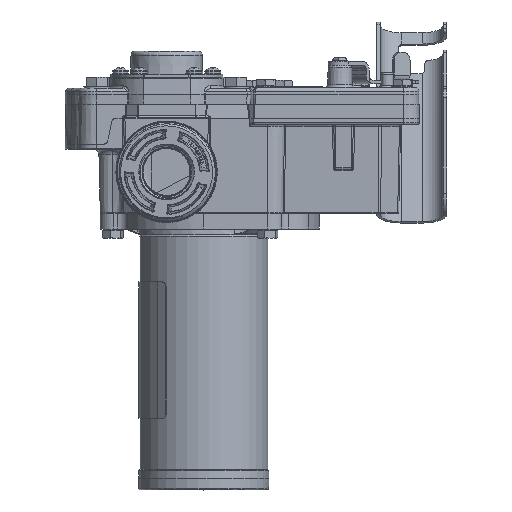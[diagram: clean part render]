
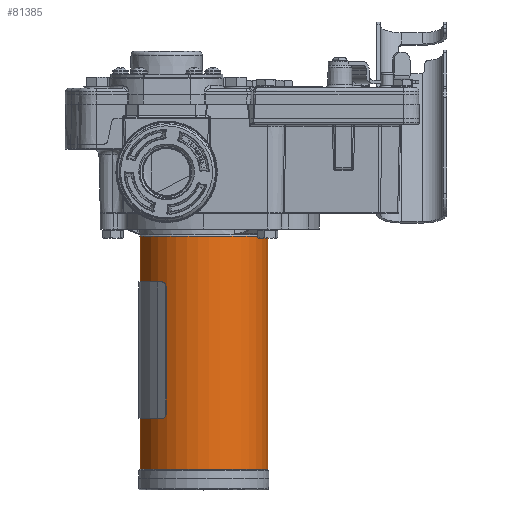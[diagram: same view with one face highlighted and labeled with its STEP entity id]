
A CAD part, front view. The second image highlights one B-rep face of the part: STEP entity #81385.
In plain terms, the highlighted cylindrical face has radius 38.976 mm (diameter 77.953 mm), a full revolution.
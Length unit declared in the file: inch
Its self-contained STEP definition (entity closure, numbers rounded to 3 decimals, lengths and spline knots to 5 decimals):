
#527=FACE_BOUND('',#10333,.T.);
#4377=CYLINDRICAL_SURFACE('',#86531,1.5345);
#5080=ELLIPSE('',#86525,4.48658,1.5345);
#5081=ELLIPSE('',#86527,4.48658,1.5345);
#5696=FACE_OUTER_BOUND('',#10332,.T.);
#10332=EDGE_LOOP('',(#54800,#54801,#54802,#54803));
#10333=EDGE_LOOP('',(#54804,#54805,#54806,#54807,#54808,#54809,#54810));
#15093=CIRCLE('',#86518,1.5345);
#15094=CIRCLE('',#86521,1.5345);
#15095=CIRCLE('',#86523,1.5345);
#15096=CIRCLE('',#86530,1.5345);
#15097=CIRCLE('',#86532,1.5345);
#20213=LINE('',#131830,#26616);
#20219=LINE('',#131844,#26622);
#20230=LINE('',#131877,#26633);
#26616=VECTOR('',#94396,0.3937);
#26622=VECTOR('',#94408,0.3937);
#26633=VECTOR('',#94445,1.5345);
#33452=VERTEX_POINT('',#131828);
#33453=VERTEX_POINT('',#131829);
#33456=VERTEX_POINT('',#131837);
#33458=VERTEX_POINT('',#131843);
#33460=VERTEX_POINT('',#131849);
#33462=VERTEX_POINT('',#131855);
#33464=VERTEX_POINT('',#131861);
#33466=VERTEX_POINT('',#131871);
#33467=VERTEX_POINT('',#131875);
#41601=EDGE_CURVE('',#33452,#33453,#20213,.T.);
#41605=EDGE_CURVE('',#33453,#33456,#15093,.T.);
#41608=EDGE_CURVE('',#33456,#33458,#20219,.T.);
#41611=EDGE_CURVE('',#33458,#33460,#15094,.T.);
#41614=EDGE_CURVE('',#33462,#33452,#15095,.T.);
#41617=EDGE_CURVE('',#33464,#33462,#5080,.T.);
#41620=EDGE_CURVE('',#33460,#33464,#5081,.T.);
#41623=EDGE_CURVE('',#33466,#33466,#15096,.T.);
#41624=EDGE_CURVE('',#33467,#33467,#15097,.T.);
#41625=EDGE_CURVE('',#33467,#33466,#20230,.T.);
#54800=ORIENTED_EDGE('',*,*,#41624,.F.);
#54801=ORIENTED_EDGE('',*,*,#41625,.T.);
#54802=ORIENTED_EDGE('',*,*,#41623,.F.);
#54803=ORIENTED_EDGE('',*,*,#41625,.F.);
#54804=ORIENTED_EDGE('',*,*,#41611,.T.);
#54805=ORIENTED_EDGE('',*,*,#41620,.T.);
#54806=ORIENTED_EDGE('',*,*,#41617,.T.);
#54807=ORIENTED_EDGE('',*,*,#41614,.T.);
#54808=ORIENTED_EDGE('',*,*,#41601,.T.);
#54809=ORIENTED_EDGE('',*,*,#41605,.T.);
#54810=ORIENTED_EDGE('',*,*,#41608,.T.);
#81385=ADVANCED_FACE('',(#5696,#527),#4377,.T.);
#86518=AXIS2_PLACEMENT_3D('',#131838,#94402,#94403);
#86521=AXIS2_PLACEMENT_3D('',#131850,#94413,#94414);
#86523=AXIS2_PLACEMENT_3D('',#131856,#94419,#94420);
#86525=AXIS2_PLACEMENT_3D('',#131862,#94425,#94426);
#86527=AXIS2_PLACEMENT_3D('',#131867,#94431,#94432);
#86530=AXIS2_PLACEMENT_3D('',#131873,#94439,#94440);
#86531=AXIS2_PLACEMENT_3D('',#131874,#94441,#94442);
#86532=AXIS2_PLACEMENT_3D('',#131876,#94443,#94444);
#94396=DIRECTION('',(0.,0.,-1.));
#94402=DIRECTION('center_axis',(0.,0.,
-1.));
#94403=DIRECTION('ref_axis',(-0.707,-0.707,0.));
#94408=DIRECTION('',(0.,0.,1.));
#94413=DIRECTION('center_axis',(0.,0.,
-1.));
#94414=DIRECTION('ref_axis',(-0.707,-0.707,0.));
#94419=DIRECTION('center_axis',(0.,0.,
-1.));
#94420=DIRECTION('ref_axis',(-0.707,-0.707,0.));
#94425=DIRECTION('center_axis',(-0.664,-0.664,0.342));
#94426=DIRECTION('ref_axis',(-0.242,-0.242,-0.94));
#94431=DIRECTION('center_axis',(0.664,0.664,0.342));
#94432=DIRECTION('ref_axis',(-0.242,-0.242,0.94));
#94439=DIRECTION('center_axis',(0.,0.,
-1.));
#94440=DIRECTION('ref_axis',(-0.707,-0.707,0.));
#94441=DIRECTION('center_axis',(0.,0.,
1.));
#94442=DIRECTION('ref_axis',(-0.707,-0.707,0.));
#94443=DIRECTION('center_axis',(0.,0.,
1.));
#94444=DIRECTION('ref_axis',(-0.707,-0.707,0.));
#94445=DIRECTION('',(0.,0.,-1.));
#131828=CARTESIAN_POINT('',(-1.09561,1.0744,-3.412));
#131829=CARTESIAN_POINT('',(-1.09561,1.0744,-8.653));
#131830=CARTESIAN_POINT('',(-1.09561,1.0744,-8.753));
#131837=CARTESIAN_POINT('',(-1.0744,1.09561,-8.653));
#131838=CARTESIAN_POINT('Origin',(0.,0.,
-8.653));
#131843=CARTESIAN_POINT('',(-1.0744,1.09561,-3.412));
#131844=CARTESIAN_POINT('',(-1.0744,1.09561,-8.753));
#131849=CARTESIAN_POINT('',(-1.03854,1.12965,-3.412));
#131850=CARTESIAN_POINT('Origin',(0.,0.,
-3.412));
#131855=CARTESIAN_POINT('',(-1.12965,1.03854,-3.412));
#131856=CARTESIAN_POINT('Origin',(0.,0.,
-3.412));
#131861=CARTESIAN_POINT('',(-1.08506,1.08506,-3.235));
#131862=CARTESIAN_POINT('Origin',(0.,0.,
-3.235));
#131867=CARTESIAN_POINT('Origin',(0.,0.,
-3.235));
#131871=CARTESIAN_POINT('',(1.08506,1.08506,-8.723));
#131873=CARTESIAN_POINT('Origin',(0.,0.,
-8.723));
#131874=CARTESIAN_POINT('Origin',(0.,0.,
-8.753));
#131875=CARTESIAN_POINT('',(1.08506,1.08506,-3.165));
#131876=CARTESIAN_POINT('Origin',(0.,0.,
-3.165));
#131877=CARTESIAN_POINT('',(1.08506,1.08506,-8.753));
